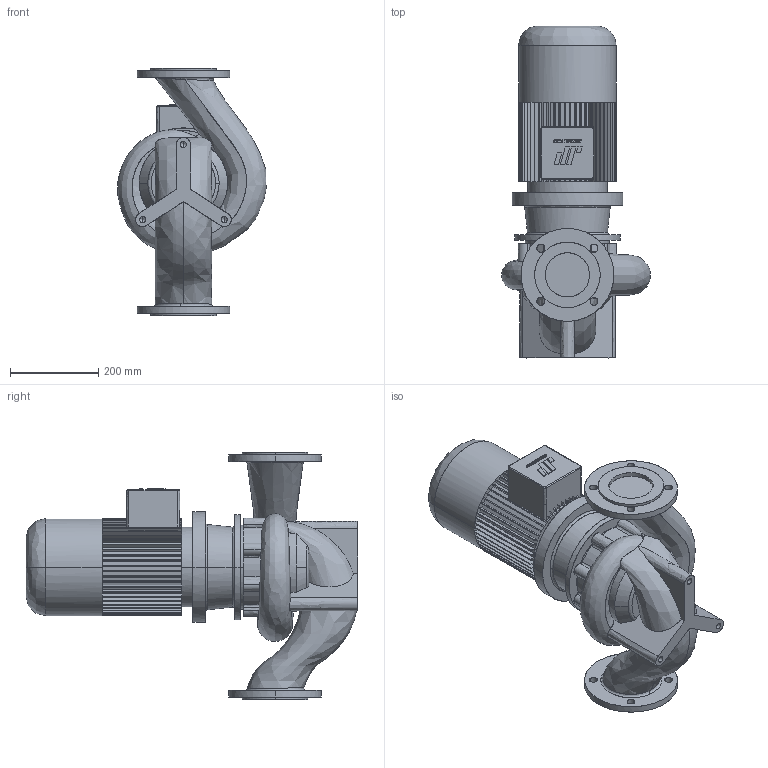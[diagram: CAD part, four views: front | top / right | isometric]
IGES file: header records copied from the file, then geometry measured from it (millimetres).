
Start section: CombiLine
Global section: file name: CLB_100-160_IEC112M.igs; native system:  By UGS Corp.; preprocessor: XPlus GENERIC/IGES 3.0; author: Stageplaats; organization: Johnson Pump Water B.V.; date: 20070716.084542; units: millimetre
Bounding box: 337.23 x 751 x 560 mm (x, y, z)
Surface area: 1261152.3 mm2 (no closed solid volume)
Topology: 0 solids, 0 shells, 549 faces, 3349 edges, 3343 vertices
Faces by surface type: bspline 549
